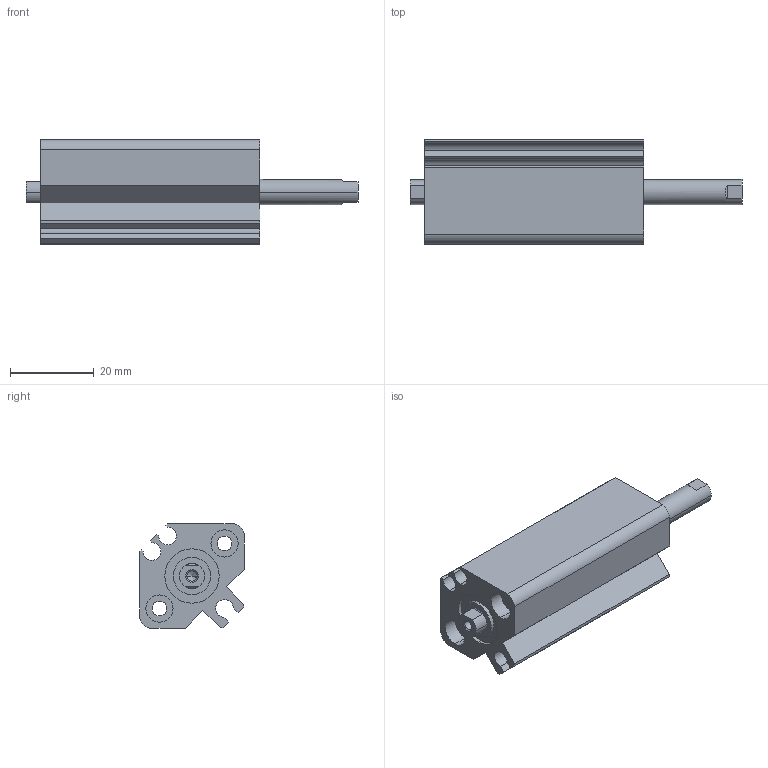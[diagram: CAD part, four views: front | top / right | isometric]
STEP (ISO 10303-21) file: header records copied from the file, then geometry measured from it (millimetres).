
FILE_DESCRIPTION (( 'STEP AP203' ), '1' );
FILE_NAME ('CCMB12-20F-P.STEP', '2020-08-05T11:01:38', ( '' ), ( '' ), 'SwSTEP 2.0', 'SolidWorks 2019', '' );
FILE_SCHEMA (( 'CONFIG_CONTROL_DESIGN' ));
Length unit declared in the file: millimetre
Products named in the file (1): CCMB12-20F-P
Bounding box: 79.4 x 25 x 25 mm (x, y, z)
Volume: 23727.1 mm3; surface area: 12761.6 mm2
Topology: 2 solids, 2 shells, 109 faces, 261 edges, 168 vertices
Faces by surface type: cylinder 50, plane 47, cone 12
Entity records: 3250 total; most frequent: DIRECTION 585, CARTESIAN_POINT 547, ORIENTED_EDGE 514, EDGE_CURVE 257, AXIS2_PLACEMENT_3D 222, VERTEX_POINT 168, VECTOR 141, LINE 141
